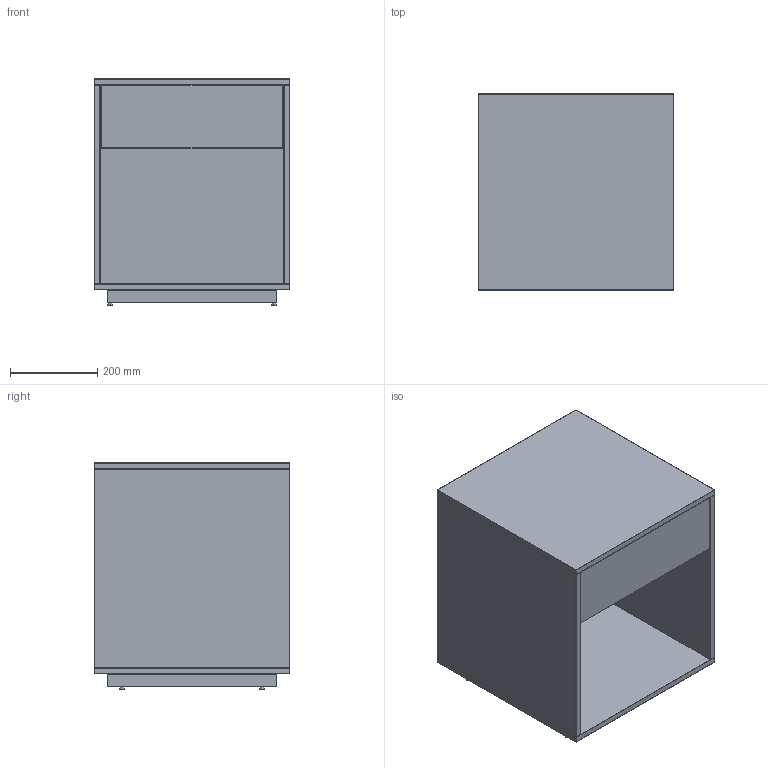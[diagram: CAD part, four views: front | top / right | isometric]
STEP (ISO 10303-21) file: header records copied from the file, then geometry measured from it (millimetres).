
FILE_DESCRIPTION(/* description */ (''),/* implementation_level */ '2;1');
FILE_NAME(/* name */ '3D_ECH~1',/* time_stamp */ '2024-04-29T12:32:38+02:00',/* author */ (''),/* organization */ (''),/* preprocessor_version */ 'ST-DEVELOPER v16.5',/* originating_system */ '',/* authorisation */ '');
FILE_SCHEMA (('AUTOMOTIVE_DESIGN'));
Length unit declared in the file: millimetre
Products named in the file (1): Document
Bounding box: 450 x 450 x 520 mm (x, y, z)
Volume: 18544263.5 mm3; surface area: 3117822.8 mm2
Topology: 16 solids, 16 shells, 260 faces, 535 edges, 307 vertices
Faces by surface type: bspline 160, plane 100
Entity records: 7262 total; most frequent: CARTESIAN_POINT 3734, ORIENTED_EDGE 1016, EDGE_CURVE 508, B_SPLINE_CURVE_WITH_KNOTS 300, VERTEX_POINT 280, EDGE_LOOP 262, ADVANCED_FACE 260, FACE_OUTER_BOUND 260
